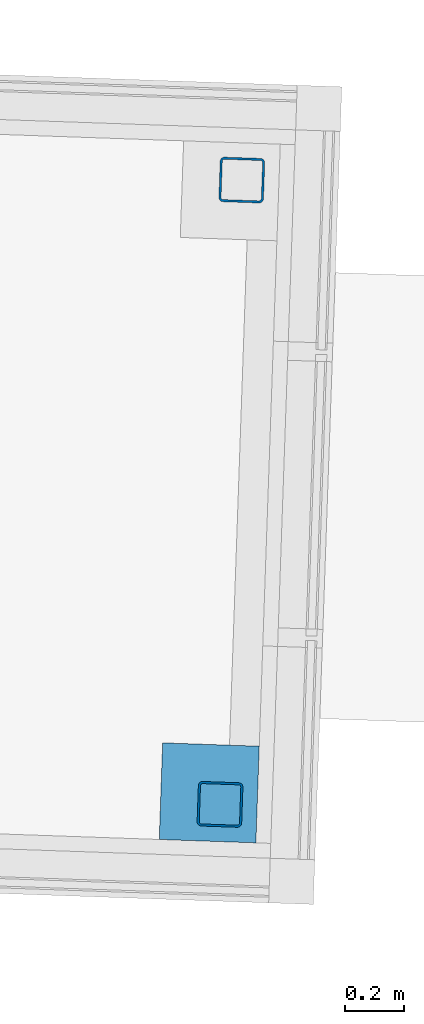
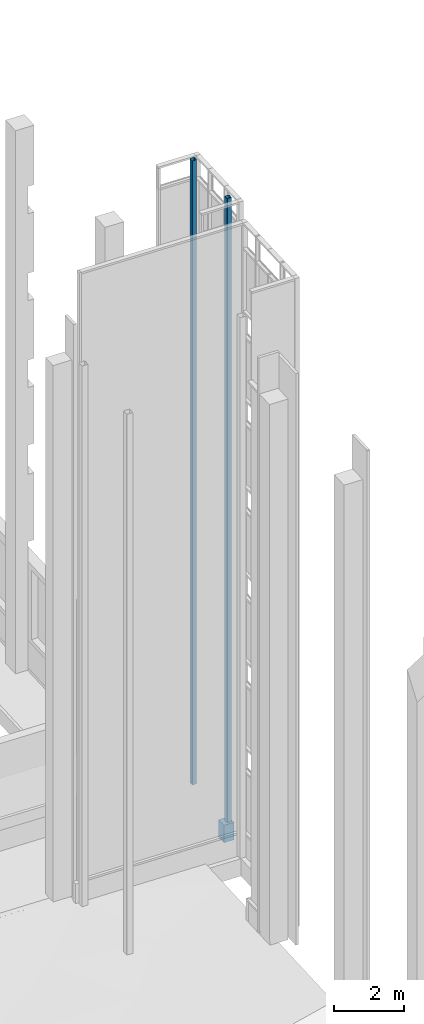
# One storey, part 7 of 44: 3 columns.
"""IFC2X3 building model written with IfcOpenShell, lengths in feet."""

from ifc_helpers import new_model, entity, si_unit, converted_unit, derived_unit, direction, frame, frame_2d, origin, origin_2d_with_axis, place, context, subcontext, project, spatial, polyline, circle_curve, parameter, trimmed, segment, composite_curve, rectangle, outline, extrude, source, transform, mapped, material, type_object, type_shapes, element, save


model = new_model("IFC2X3")

# Units and contexts
model_context = context("Model", 3, precision=0.0001, world=origin(), true_north=direction((0.999390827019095, 0.0348994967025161)))
body_context = subcontext(model_context, "Body", "Model", "MODEL_VIEW")
ifc_project = project(units=[converted_unit("LENGTHUNIT", "FOOT", entity("IfcRatioMeasure", 0.3048), si_unit("LENGTHUNIT", "METRE"), dimensions=[1, 0, 0, 0, 0, 0, 0]), converted_unit("AREAUNIT", "SQUARE FOOT", entity("IfcRatioMeasure", 0.09290304), si_unit("AREAUNIT", "SQUARE_METRE"), dimensions=[2, 0, 0, 0, 0, 0, 0]), converted_unit("VOLUMEUNIT", "CUBIC FOOT", entity("IfcRatioMeasure", 0.028316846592), si_unit("VOLUMEUNIT", "CUBIC_METRE"), dimensions=[3, 0, 0, 0, 0, 0, 0]), converted_unit("PLANEANGLEUNIT", "DEGREE", entity("IfcRatioMeasure", 0.0174532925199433), si_unit("PLANEANGLEUNIT", "RADIAN"), dimensions=[0, 0, 0, 0, 0, 0, 0]), si_unit("MASSUNIT", "GRAM", prefix="KILO"), si_unit("TIMEUNIT", "SECOND"), si_unit("FREQUENCYUNIT", "HERTZ"), si_unit("THERMODYNAMICTEMPERATUREUNIT", "DEGREE_CELSIUS"), derived_unit("THERMALTRANSMITTANCEUNIT", [(si_unit("MASSUNIT", "GRAM", prefix="KILO"), 1), (si_unit("THERMODYNAMICTEMPERATUREUNIT", "KELVIN"), -1), (si_unit("TIMEUNIT", "SECOND"), -3)]), derived_unit("VOLUMETRICFLOWRATEUNIT", [(si_unit("LENGTHUNIT", "METRE"), 3), (si_unit("TIMEUNIT", "SECOND"), -1)]), si_unit("ELECTRICCURRENTUNIT", "AMPERE"), si_unit("ELECTRICVOLTAGEUNIT", "VOLT"), si_unit("POWERUNIT", "WATT"), si_unit("FORCEUNIT", "NEWTON"), si_unit("ILLUMINANCEUNIT", "LUX"), si_unit("LUMINOUSFLUXUNIT", "LUMEN"), si_unit("LUMINOUSINTENSITYUNIT", "CANDELA"), derived_unit("USERDEFINED", [(si_unit("MASSUNIT", "GRAM", prefix="KILO"), -1), (si_unit("LENGTHUNIT", "METRE"), -2), (si_unit("TIMEUNIT", "SECOND"), 3), (si_unit("LUMINOUSFLUXUNIT", "LUMEN"), 1)]), derived_unit("LINEARVELOCITYUNIT", [(si_unit("LENGTHUNIT", "METRE"), 1), (si_unit("TIMEUNIT", "SECOND"), -1)]), si_unit("PRESSUREUNIT", "PASCAL"), derived_unit("USERDEFINED", [(si_unit("LENGTHUNIT", "METRE"), -2), (si_unit("MASSUNIT", "GRAM", prefix="KILO"), 1), (si_unit("TIMEUNIT", "SECOND"), -2)])], contexts=[model_context])

# Site, building, storey
site_placement = place(None, frame((892.518771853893, 322.38689265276, 0.00393700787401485), z_axis=(0.0, 0.0, 1.0), x_axis=(0.0348994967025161, 0.999390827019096, 0.0)))
site = spatial("IfcSite", under=ifc_project, at=site_placement, Name="Default", CompositionType="ELEMENT")
building_placement = place(site_placement, origin())
building = spatial("IfcBuilding", under=site, at=building_placement, CompositionType="ELEMENT")
storey_placement = place(building_placement, frame((0.0, 0.0, 544.75)))
storey = spatial("IfcBuildingStorey", under=building, at=storey_placement, Name="Exist Garage - Ground Level", CompositionType="ELEMENT", Elevation=544.75)

# Columns
ifc_material_1 = material(Name="Metal - Steel - ASTM A500 - Grade B - Rectangular and Square")
column_type_1 = type_object("IfcColumnType", Name="HSS6x6x5/16", PredefinedType="COLUMN", material=ifc_material_1)
shared_shape_1 = source(origin(), body_context, "Body", "SweptSolid", [
    extrude(outline(composite_curve([segment(polyline([(-0.201500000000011, -0.249999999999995), (0.201500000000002, -0.249999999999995)]), True, "CONTINUOUS"), segment(trimmed(circle_curve(frame_2d((0.201500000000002, -0.201499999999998), x_axis=(-1.0, 0.0)), 0.0484999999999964), [parameter(90.0000000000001)], [parameter(180.0)], True, "PARAMETER"), True, "CONTINUOUS"), segment(polyline([(0.249999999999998, -0.201499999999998), (0.249999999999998, 0.2015)]), True, "CONTINUOUS"), segment(trimmed(circle_curve(frame_2d((0.201499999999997, 0.2015), x_axis=(-1.0, 0.0)), 0.0485000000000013), [parameter(180.0)], [parameter(270.0)], True, "PARAMETER"), True, "CONTINUOUS"), segment(polyline([(0.201499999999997, 0.250000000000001), (-0.20149999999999, 0.250000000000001)]), True, "CONTINUOUS"), segment(trimmed(circle_curve(frame_2d((-0.20149999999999, 0.201499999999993), x_axis=(-1.0, 0.0)), 0.0485000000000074), [parameter(270.0)], [parameter(360.0)], True, "PARAMETER"), True, "CONTINUOUS"), segment(polyline([(-0.249999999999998, 0.201499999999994), (-0.249999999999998, -0.201500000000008)]), True, "CONTINUOUS"), segment(trimmed(circle_curve(frame_2d((-0.201500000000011, -0.201500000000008), x_axis=(-1.0, 0.0)), 0.048499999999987), [parameter(360.0)], [parameter(89.9999999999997)], True, "PARAMETER"), True, "CONTINUOUS")], self_intersect=False), holes=[composite_curve([segment(trimmed(circle_curve(frame_2d((-0.201500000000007, -0.201500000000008), x_axis=(-1.0, 0.0)), 0.0242499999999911), [parameter(0.0)], [parameter(89.9999999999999)], True, "PARAMETER"), False, "CONTINUOUS"), segment(polyline([(-0.225749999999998, -0.201500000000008), (-0.225749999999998, 0.201500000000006)]), True, "CONTINUOUS"), segment(trimmed(circle_curve(frame_2d((-0.201500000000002, 0.201500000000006), x_axis=(-1.0, 0.0)), 0.0242499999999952), [parameter(270.0)], [parameter(360.0)], True, "PARAMETER"), False, "CONTINUOUS"), segment(polyline([(-0.201500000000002, 0.225750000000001), (0.201499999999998, 0.225750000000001)]), True, "CONTINUOUS"), segment(trimmed(circle_curve(frame_2d((0.201499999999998, 0.201499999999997), x_axis=(-1.0, 0.0)), 0.0242500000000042), [parameter(180.0)], [parameter(270.0)], True, "PARAMETER"), False, "CONTINUOUS"), segment(polyline([(0.225750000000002, 0.201499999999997), (0.225750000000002, -0.201499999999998)]), True, "CONTINUOUS"), segment(trimmed(circle_curve(frame_2d((0.201500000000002, -0.201499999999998), x_axis=(-1.0, 0.0)), 0.0242500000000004), [parameter(90.0000000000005)], [parameter(180.0)], True, "PARAMETER"), False, "CONTINUOUS"), segment(polyline([(0.201500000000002, -0.225749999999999), (-0.201500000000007, -0.225749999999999)]), True, "CONTINUOUS")], self_intersect=False)]), frame((0.0, 0.0, 545.166666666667), z_axis=(0.0, 0.0, 1.0), x_axis=(-1.0, 0.0, 0.0)), (0.0, 0.0, 1.0), 71.8333333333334),
])
type_shapes(column_type_1, [shared_shape_1])
for number, where, name in (
    (1, (106.343959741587, 231.847286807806, -544.75), "05_HSS-Hollow Structural Section-Column:HSS6x6x5/16"),
    (2, (113.343963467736, 231.847286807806, -544.75), "05_HSS-Hollow Structural Section-Column:HSS6x6x5/16"),
):
    element("IfcColumn", number, at=place(storey_placement, frame(where)), inside=storey, type_object=column_type_1, material=ifc_material_1, Name=name, ObjectType="HSS6x6x5/16", context=body_context, shape_type="MappedRepresentation", body=[
        mapped(shared_shape_1, transform((0.0, 0.0, 0.0), scale=1.0)),
    ])
ifc_material_2 = material(Name="Concrete - Cast-in-Place Concrete")
column_type_2 = type_object("IfcColumnType", Name="13 x 13", PredefinedType="COLUMN", material=ifc_material_2)
shared_shape_2 = source(origin(), body_context, "Body", "SweptSolid", [
    extrude(rectangle(XDim=1.08333333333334, YDim=1.08333333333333, at=origin_2d_with_axis()), frame((106.468959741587, 231.972286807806, 543.083333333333), z_axis=(0.0, 0.0, 1.0), x_axis=(0.0, -1.0, 0.0)), (0.0, 0.0, 1.0), 2.0),
])
type_shapes(column_type_2, [shared_shape_2])
column_placement = place(storey_placement, frame((0.0, 0.0, -544.75)))
element("IfcColumn", 3, at=column_placement, inside=storey, type_object=column_type_2, material=ifc_material_2, Name="Concrete-Square-Column:13 x 13", ObjectType="13 x 13", context=body_context, shape_type="MappedRepresentation", body=[
    mapped(shared_shape_2, transform((0.0, 0.0, 0.0), scale=1.0)),
])

save(model, "model.ifc")
